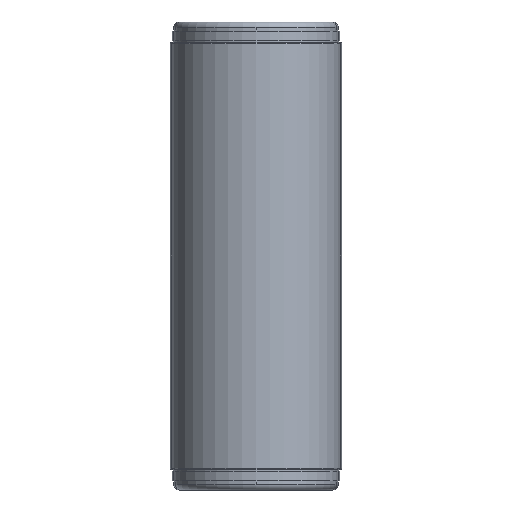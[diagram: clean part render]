
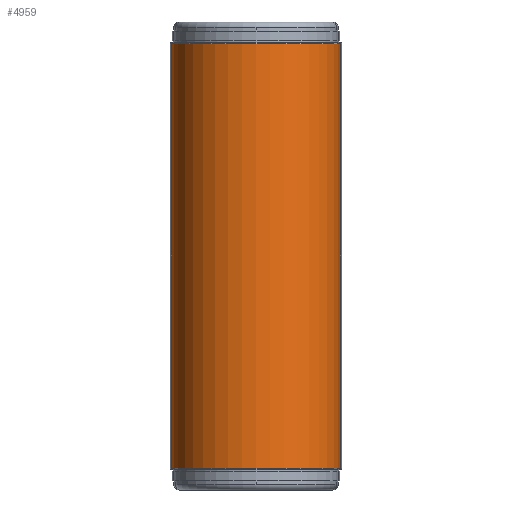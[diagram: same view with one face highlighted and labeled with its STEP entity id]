
A CAD part, left-side view. The second image highlights one B-rep face of the part: STEP entity #4959.
In plain terms, the highlighted cylindrical face has radius 75.3 mm (diameter 150.6 mm), a partial arc.
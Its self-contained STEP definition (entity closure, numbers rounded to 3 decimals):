
#32 = AXIS2_PLACEMENT_3D ( 'NONE', #4574, #3713, #490 ) ;
#72 = LINE ( 'NONE', #3353, #2227 ) ;
#85 = CARTESIAN_POINT ( 'NONE',  ( 0., 0., 0. ) ) ;
#204 = VECTOR ( 'NONE', #5332, 1000. ) ;
#416 = LINE ( 'NONE', #2033, #204 ) ;
#490 = DIRECTION ( 'NONE',  ( 1., 0., 0. ) ) ;
#519 = EDGE_CURVE ( 'NONE', #4825, #5161, #72, .T. ) ;
#522 = ORIENTED_EDGE ( 'NONE', *, *, #1086, .F. ) ;
#566 = EDGE_CURVE ( 'NONE', #5161, #5421, #4162, .T. ) ;
#761 = CYLINDRICAL_SURFACE ( 'NONE', #1224, 75.3 ) ;
#1014 = ORIENTED_EDGE ( 'NONE', *, *, #519, .T. ) ;
#1086 = EDGE_CURVE ( 'NONE', #4825, #1425, #5661, .T. ) ;
#1224 = AXIS2_PLACEMENT_3D ( 'NONE', #85, #1480, #4794 ) ;
#1272 = AXIS2_PLACEMENT_3D ( 'NONE', #4254, #4719, #5189 ) ;
#1425 = VERTEX_POINT ( 'NONE', #2201 ) ;
#1480 = DIRECTION ( 'NONE',  ( 0., 0., 1. ) ) ;
#2033 = CARTESIAN_POINT ( 'NONE',  ( -4.374, -75.173, 189.5 ) ) ;
#2050 = ORIENTED_EDGE ( 'NONE', *, *, #566, .T. ) ;
#2201 = CARTESIAN_POINT ( 'NONE',  ( -4.374, -75.173, 189.5 ) ) ;
#2227 = VECTOR ( 'NONE', #4271, 1000. ) ;
#2403 = CARTESIAN_POINT ( 'NONE',  ( -4.374, 75.173, -189.5 ) ) ;
#3353 = CARTESIAN_POINT ( 'NONE',  ( -4.374, 75.173, 189.5 ) ) ;
#3663 = EDGE_LOOP ( 'NONE', ( #1014, #2050, #5392, #522 ) ) ;
#3713 = DIRECTION ( 'NONE',  ( 0., 0., 1. ) ) ;
#4162 = CIRCLE ( 'NONE', #1272, 75.3 ) ;
#4254 = CARTESIAN_POINT ( 'NONE',  ( 0., 0., -189.5 ) ) ;
#4271 = DIRECTION ( 'NONE',  ( 0., 0., -1. ) ) ;
#4574 = CARTESIAN_POINT ( 'NONE',  ( 0., 0., 189.5 ) ) ;
#4584 = CARTESIAN_POINT ( 'NONE',  ( -4.374, -75.173, -189.5 ) ) ;
#4587 = CARTESIAN_POINT ( 'NONE',  ( -4.374, 75.173, 189.5 ) ) ;
#4719 = DIRECTION ( 'NONE',  ( 0., 0., 1. ) ) ;
#4794 = DIRECTION ( 'NONE',  ( 1., 0., 0. ) ) ;
#4825 = VERTEX_POINT ( 'NONE', #4587 ) ;
#4959 = ADVANCED_FACE ( 'NONE', ( #5225 ), #761, .T. ) ;
#5161 = VERTEX_POINT ( 'NONE', #2403 ) ;
#5189 = DIRECTION ( 'NONE',  ( 1., 0., 0. ) ) ;
#5225 = FACE_OUTER_BOUND ( 'NONE', #3663, .T. ) ;
#5332 = DIRECTION ( 'NONE',  ( 0., 0., -1. ) ) ;
#5392 = ORIENTED_EDGE ( 'NONE', *, *, #5757, .F. ) ;
#5421 = VERTEX_POINT ( 'NONE', #4584 ) ;
#5661 = CIRCLE ( 'NONE', #32, 75.3 ) ;
#5757 = EDGE_CURVE ( 'NONE', #1425, #5421, #416, .T. ) ;
